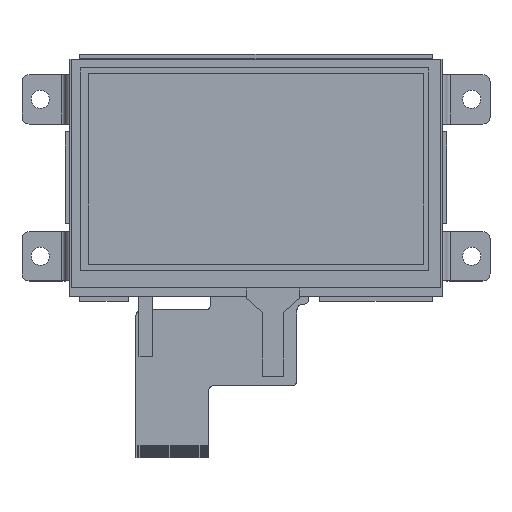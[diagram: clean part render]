
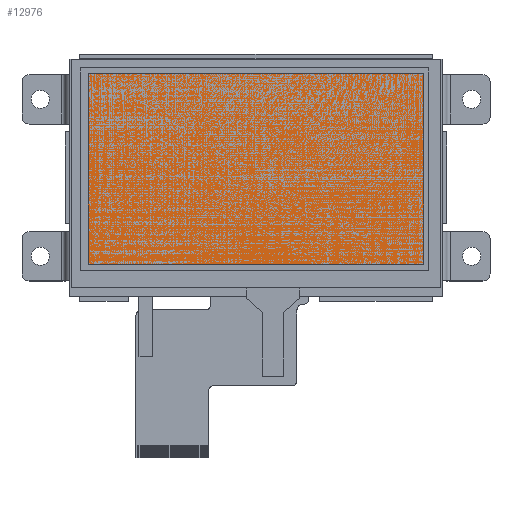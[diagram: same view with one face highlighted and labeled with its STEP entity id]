
A CAD part, top view. The second image highlights one B-rep face of the part: STEP entity #12976.
In plain terms, the highlighted planar face has unit normal (0, 0, 1).
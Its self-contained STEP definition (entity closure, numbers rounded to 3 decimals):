
#128 = EDGE_LOOP ( 'NONE', ( #4213, #6845, #3653, #695 ) ) ;
#460 = VECTOR ( 'NONE', #6991, 1000. ) ;
#695 = ORIENTED_EDGE ( 'NONE', *, *, #14690, .T. ) ;
#845 = LINE ( 'NONE', #9440, #460 ) ;
#1423 = DIRECTION ( 'NONE',  ( 1., 0., 0. ) ) ;
#1785 = CARTESIAN_POINT ( 'NONE',  ( -47.52, -24.44, 4.05 ) ) ;
#2347 = LINE ( 'NONE', #6876, #15030 ) ;
#3211 = VERTEX_POINT ( 'NONE', #10491 ) ;
#3596 = LINE ( 'NONE', #10456, #13027 ) ;
#3653 = ORIENTED_EDGE ( 'NONE', *, *, #9067, .T. ) ;
#4213 = ORIENTED_EDGE ( 'NONE', *, *, #7969, .T. ) ;
#5849 = VECTOR ( 'NONE', #14620, 1000. ) ;
#6006 = VERTEX_POINT ( 'NONE', #6885 ) ;
#6845 = ORIENTED_EDGE ( 'NONE', *, *, #12435, .T. ) ;
#6876 = CARTESIAN_POINT ( 'NONE',  ( -47.52, 29.42, 4.05 ) ) ;
#6885 = CARTESIAN_POINT ( 'NONE',  ( -47.52, 29.42, 4.05 ) ) ;
#6991 = DIRECTION ( 'NONE',  ( 0., 1., 0. ) ) ;
#7384 = VERTEX_POINT ( 'NONE', #1785 ) ;
#7911 = CARTESIAN_POINT ( 'NONE',  ( 47.52, 29.42, 4.05 ) ) ;
#7969 = EDGE_CURVE ( 'NONE', #6006, #7384, #2347, .T. ) ;
#8875 = CARTESIAN_POINT ( 'NONE',  ( 0., 0., 4.05 ) ) ;
#8932 = PLANE ( 'NONE',  #13159 ) ;
#9067 = EDGE_CURVE ( 'NONE', #3211, #14958, #845, .T. ) ;
#9440 = CARTESIAN_POINT ( 'NONE',  ( 47.52, 29.42, 4.05 ) ) ;
#10388 = DIRECTION ( 'NONE',  ( 0., 0., 1. ) ) ;
#10456 = CARTESIAN_POINT ( 'NONE',  ( -47.52, -24.44, 4.05 ) ) ;
#10491 = CARTESIAN_POINT ( 'NONE',  ( 47.52, -24.44, 4.05 ) ) ;
#10577 = DIRECTION ( 'NONE',  ( 0., -1., 0. ) ) ;
#11688 = DIRECTION ( 'NONE',  ( 1., 0., 0. ) ) ;
#12435 = EDGE_CURVE ( 'NONE', #7384, #3211, #3596, .T. ) ;
#12976 = ADVANCED_FACE ( 'NONE', ( #14137 ), #8932, .T. ) ;
#13027 = VECTOR ( 'NONE', #11688, 1000. ) ;
#13159 = AXIS2_PLACEMENT_3D ( 'NONE', #8875, #10388, #1423 ) ;
#13408 = CARTESIAN_POINT ( 'NONE',  ( -47.52, 29.42, 4.05 ) ) ;
#14137 = FACE_OUTER_BOUND ( 'NONE', #128, .T. ) ;
#14620 = DIRECTION ( 'NONE',  ( -1., 0., 0. ) ) ;
#14690 = EDGE_CURVE ( 'NONE', #14958, #6006, #15643, .T. ) ;
#14958 = VERTEX_POINT ( 'NONE', #7911 ) ;
#15030 = VECTOR ( 'NONE', #10577, 1000. ) ;
#15643 = LINE ( 'NONE', #13408, #5849 ) ;
